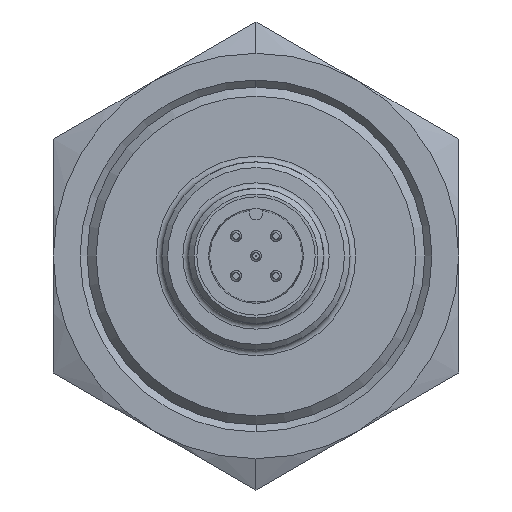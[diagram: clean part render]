
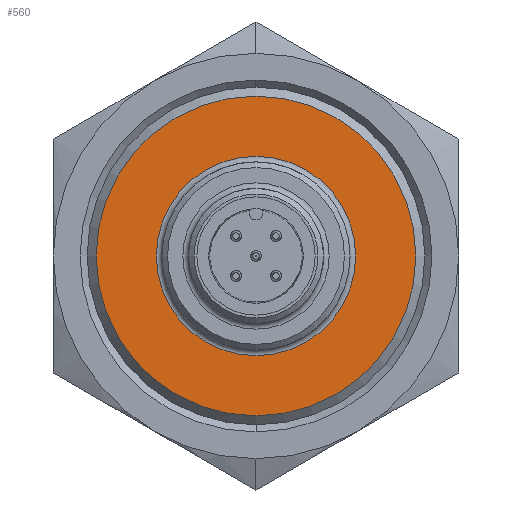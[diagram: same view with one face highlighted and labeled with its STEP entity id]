
A CAD part, left-side view. The second image highlights one B-rep face of the part: STEP entity #560.
In plain terms, the highlighted planar face has unit normal (-1, 0, 0).
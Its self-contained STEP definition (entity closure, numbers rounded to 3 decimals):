
#270=FACE_BOUND('',#858,.T.);
#271=FACE_BOUND('',#859,.T.);
#349=PLANE('',#2187);
#560=ADVANCED_FACE('',(#270,#271),#349,.F.);
#858=EDGE_LOOP('',(#1406));
#859=EDGE_LOOP('',(#1407));
#982=CIRCLE('',#2141,14.2);
#984=CIRCLE('',#2144,8.85);
#1406=ORIENTED_EDGE('',*,*,#1809,.T.);
#1407=ORIENTED_EDGE('',*,*,#1811,.T.);
#1593=VERTEX_POINT('',#3673);
#1595=VERTEX_POINT('',#3678);
#1809=EDGE_CURVE('',#1593,#1593,#982,.T.);
#1811=EDGE_CURVE('',#1595,#1595,#984,.T.);
#2141=AXIS2_PLACEMENT_3D('',#3672,#2549,#2550);
#2144=AXIS2_PLACEMENT_3D('',#3677,#2555,#2556);
#2187=AXIS2_PLACEMENT_3D('',#4075,#2653,#2654);
#2549=DIRECTION('',(-1.,0.,0.));
#2550=DIRECTION('',(0.,0.,-1.));
#2555=DIRECTION('',(1.,0.,0.));
#2556=DIRECTION('',(0.,0.,-1.));
#2653=DIRECTION('',(1.,0.,0.));
#2654=DIRECTION('',(0.,-1.,0.));
#3672=CARTESIAN_POINT('',(-53.8,0.,0.));
#3673=CARTESIAN_POINT('',(-53.8,0.,-14.2));
#3677=CARTESIAN_POINT('',(-53.8,0.,0.));
#3678=CARTESIAN_POINT('',(-53.8,0.,-8.85));
#4075=CARTESIAN_POINT('',(-53.8,0.,0.));
